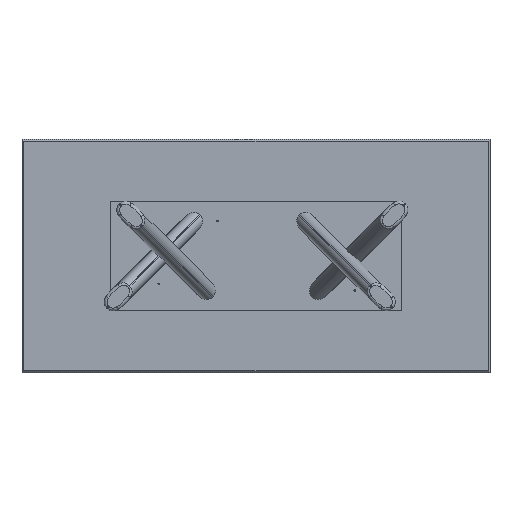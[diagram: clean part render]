
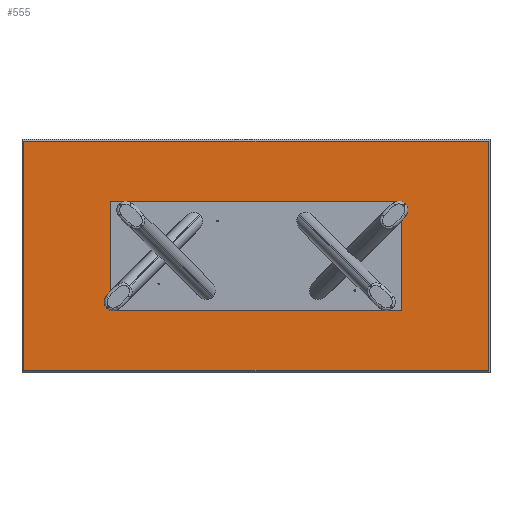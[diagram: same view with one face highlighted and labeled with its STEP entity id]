
A CAD part, front view. The second image highlights one B-rep face of the part: STEP entity #555.
In plain terms, the highlighted planar face has unit normal (0, -1, 0).
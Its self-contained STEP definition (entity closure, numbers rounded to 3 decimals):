
#3 = DIRECTION ( 'NONE',  ( -1., 0., 0. ) ) ;
#18 = CARTESIAN_POINT ( 'NONE',  ( 0., 50., 0. ) ) ;
#350 = FACE_OUTER_BOUND ( 'NONE', #3482, .T. ) ;
#360 = CARTESIAN_POINT ( 'NONE',  ( 1187., 50., -587. ) ) ;
#555 = ADVANCED_FACE ( 'NONE', ( #350 ), #1712, .T. ) ;
#876 = EDGE_CURVE ( 'NONE', #1002, #2540, #1650, .T. ) ;
#1002 = VERTEX_POINT ( 'NONE', #2578 ) ;
#1048 = EDGE_CURVE ( 'NONE', #1156, #4155, #1486, .T. ) ;
#1082 = ORIENTED_EDGE ( 'NONE', *, *, #3635, .T. ) ;
#1099 = VECTOR ( 'NONE', #3444, 1000. ) ;
#1130 = CARTESIAN_POINT ( 'NONE',  ( -1187., 50., -587. ) ) ;
#1156 = VERTEX_POINT ( 'NONE', #1130 ) ;
#1199 = DIRECTION ( 'NONE',  ( 1., 0., 0. ) ) ;
#1300 = CARTESIAN_POINT ( 'NONE',  ( -1187., 50., 587. ) ) ;
#1372 = DIRECTION ( 'NONE',  ( 0., -1., 0. ) ) ;
#1486 = LINE ( 'NONE', #3903, #4290 ) ;
#1556 = LINE ( 'NONE', #3919, #1671 ) ;
#1650 = LINE ( 'NONE', #3397, #4350 ) ;
#1671 = VECTOR ( 'NONE', #3251, 1000. ) ;
#1712 = PLANE ( 'NONE',  #3145 ) ;
#1751 = LINE ( 'NONE', #2363, #1099 ) ;
#2276 = ORIENTED_EDGE ( 'NONE', *, *, #1048, .T. ) ;
#2363 = CARTESIAN_POINT ( 'NONE',  ( -1187., 50., -595. ) ) ;
#2540 = VERTEX_POINT ( 'NONE', #1300 ) ;
#2578 = CARTESIAN_POINT ( 'NONE',  ( 1187., 50., 587. ) ) ;
#2737 = DIRECTION ( 'NONE',  ( 0., 0., -1. ) ) ;
#2760 = EDGE_CURVE ( 'NONE', #2540, #1156, #1751, .T. ) ;
#2900 = ORIENTED_EDGE ( 'NONE', *, *, #876, .T. ) ;
#3145 = AXIS2_PLACEMENT_3D ( 'NONE', #18, #1372, #2737 ) ;
#3251 = DIRECTION ( 'NONE',  ( 0., 0., 1. ) ) ;
#3397 = CARTESIAN_POINT ( 'NONE',  ( -1195., 50., 587. ) ) ;
#3444 = DIRECTION ( 'NONE',  ( 0., 0., -1. ) ) ;
#3482 = EDGE_LOOP ( 'NONE', ( #4181, #2276, #1082, #2900 ) ) ;
#3635 = EDGE_CURVE ( 'NONE', #4155, #1002, #1556, .T. ) ;
#3903 = CARTESIAN_POINT ( 'NONE',  ( 1195., 50., -587. ) ) ;
#3919 = CARTESIAN_POINT ( 'NONE',  ( 1187., 50., 595. ) ) ;
#4155 = VERTEX_POINT ( 'NONE', #360 ) ;
#4181 = ORIENTED_EDGE ( 'NONE', *, *, #2760, .T. ) ;
#4290 = VECTOR ( 'NONE', #1199, 1000. ) ;
#4350 = VECTOR ( 'NONE', #3, 1000. ) ;
